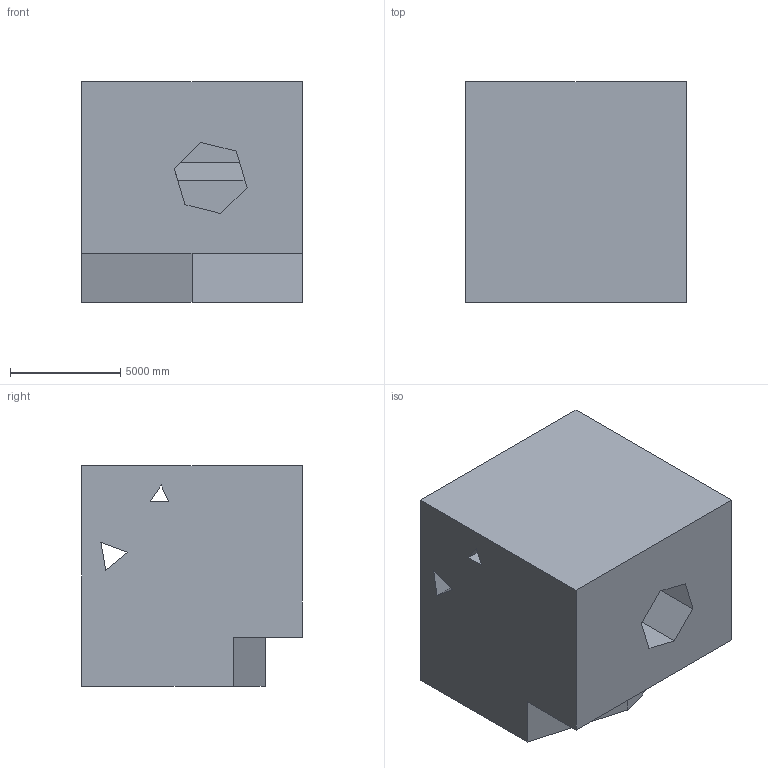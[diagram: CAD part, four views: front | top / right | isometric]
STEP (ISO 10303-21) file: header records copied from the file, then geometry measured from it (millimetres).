
FILE_DESCRIPTION (( 'STEP AP203' ), '1' );
FILE_NAME ('37.STEP', '2022-08-30T14:07:38', ( 'user' ), ( '' ), 'SwSTEP 2.0', 'SolidWorks 2021', '' );
FILE_SCHEMA (( 'CONFIG_CONTROL_DESIGN' ));
Length unit declared in the file: centimetre
Products named in the file (1): 37
Bounding box: 10000 x 10000 x 10000 mm (x, y, z)
Volume: 872950963933.6 mm3; surface area: 729058631.1 mm2
Topology: 1 solids, 1 shells, 23 faces, 66 edges, 44 vertices
Faces by surface type: plane 23
Entity records: 829 total; most frequent: CARTESIAN_POINT 134, ORIENTED_EDGE 132, DIRECTION 114, LINE 66, EDGE_CURVE 66, VECTOR 66, VERTEX_POINT 44, EDGE_LOOP 28
